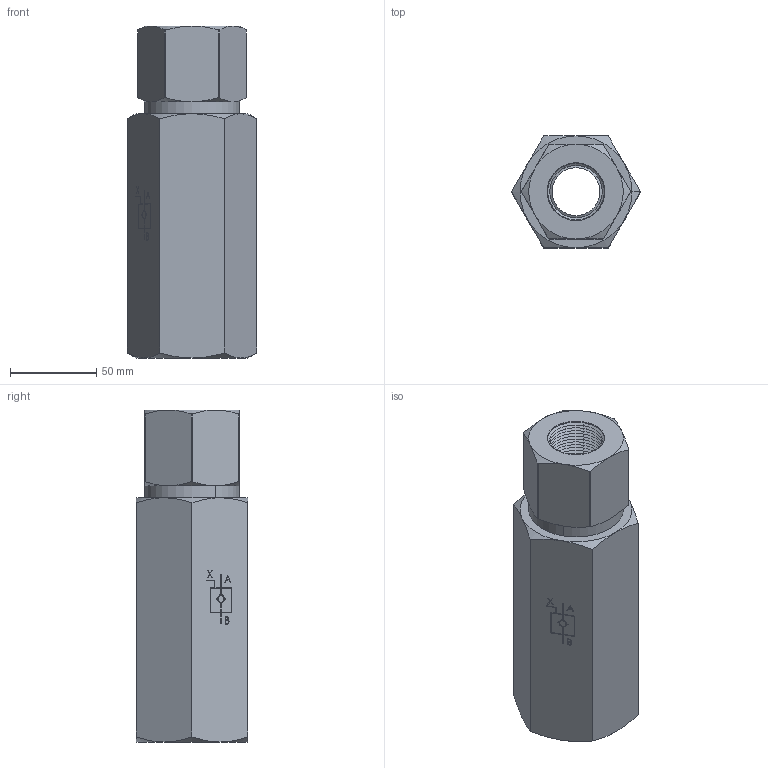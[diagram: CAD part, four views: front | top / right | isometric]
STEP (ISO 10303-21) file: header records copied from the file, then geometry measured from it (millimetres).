
FILE_DESCRIPTION (( 'STEP AP214' ), '1' );
FILE_NAME ('2257-7-100.STEP', '2015-04-08T21:15:05', ( '' ), ( '' ), 'SwSTEP 2.0', 'SolidWorks 2014', '' );
FILE_SCHEMA (( 'AUTOMOTIVE_DESIGN' ));
Length unit declared in the file: millimetre
Products named in the file (1): 2257-7-100
Bounding box: 75.06 x 65 x 193 mm (x, y, z)
Surface area: 52303.7 mm2 (no closed solid volume)
Topology: 0 solids, 40 shells, 300 faces, 1046 edges, 724 vertices
Faces by surface type: plane 135, cone 104, bspline 39, cylinder 22
Entity records: 18094 total; most frequent: CARTESIAN_POINT 6310, DIRECTION 1610, ORIENTED_EDGE 1602, EDGE_CURVE 1046, VERTEX_POINT 724, VECTOR 626, LINE 626, AXIS2_PLACEMENT_3D 492
